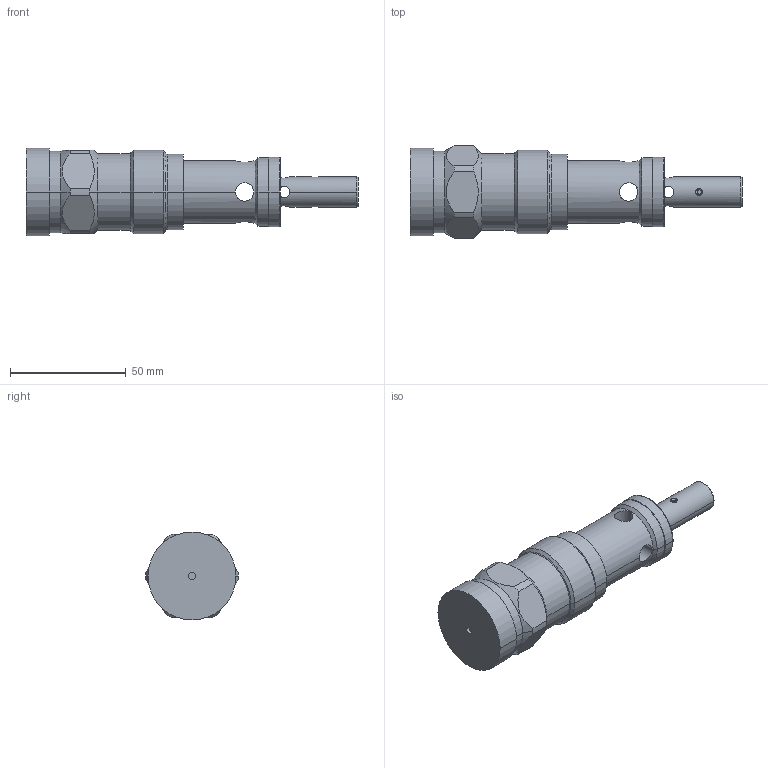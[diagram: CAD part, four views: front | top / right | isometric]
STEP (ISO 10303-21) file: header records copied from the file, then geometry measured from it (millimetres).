
FILE_DESCRIPTION((''),'2;1');
FILE_NAME('VPP_R_16_292368','2018-10-16T',('l.soukupova'),(''),'PRO/ENGINEER BY PARAMETRIC TECHNOLOGY CORPORATION, 2015440','PRO/ENGINEER BY PARAMETRIC TECHNOLOGY CORPORATION, 2015440','');
FILE_SCHEMA(('AUTOMOTIVE_DESIGN { 1 0 10303 214 1 1 1 1 }'));
Length unit declared in the file: millimetre
Products named in the file (1): VPP_R_16_292368
Bounding box: 143.5 x 40 x 38 mm (x, y, z)
Volume: 93867.9 mm3; surface area: 18151.1 mm2
Topology: 1 solids, 2 shells, 93 faces, 228 edges, 144 vertices
Faces by surface type: cylinder 56, cone 18, plane 17, torus 2
Entity records: 5139 total; most frequent: CARTESIAN_POINT 2130, DIRECTION 466, ORIENTED_EDGE 436, PRESENTATION_STYLE_ASSIGNMENT 239, STYLED_ITEM 235, CURVE_STYLE 233, EDGE_CURVE 220, AXIS2_PLACEMENT_3D 188
